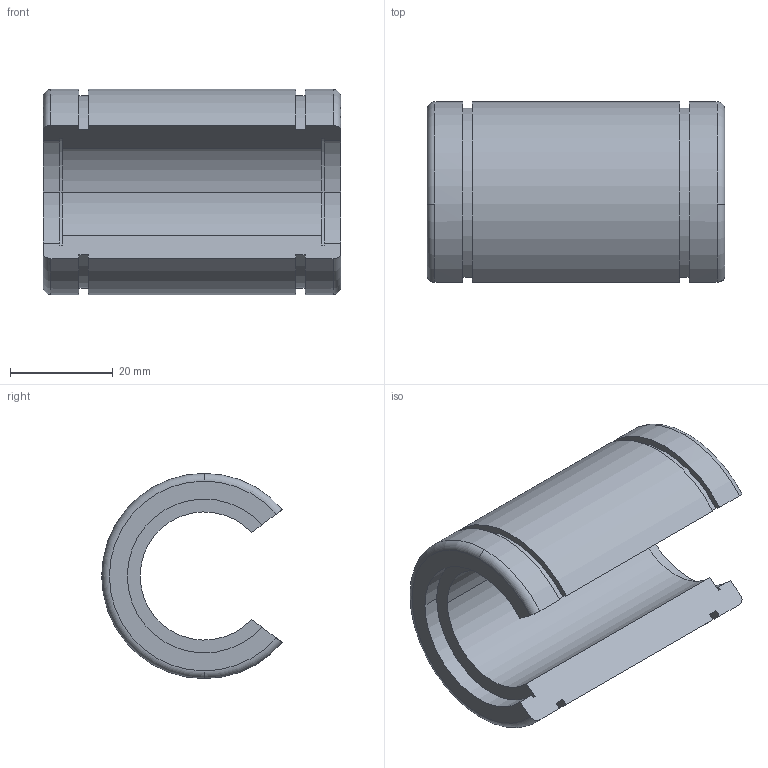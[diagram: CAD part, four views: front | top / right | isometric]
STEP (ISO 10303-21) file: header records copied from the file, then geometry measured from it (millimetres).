
FILE_DESCRIPTION( ( '' ), '1' );
FILE_NAME( '//partserver001.servicenet/client_exchange/iodir/jobs/output/wkb20114347_no2/STEP/ubm_25op_ww_2_03.stp', '2009-11-12T13:09:09', ( '' ), ( '' ), ' ', ' ', ' ' );
FILE_SCHEMA( ( 'CONFIG_CONTROL_DESIGN' ) );
Length unit declared in the file: millimetre
Products named in the file (1): 1
Bounding box: 58 x 35.22 x 40 mm (x, y, z)
Volume: 32438.8 mm3; surface area: 11734.6 mm2
Topology: 1 solids, 1 shells, 38 faces, 108 edges, 72 vertices
Faces by surface type: cylinder 20, plane 12, torus 6
Entity records: 1370 total; most frequent: CARTESIAN_POINT 287, DIRECTION 236, ORIENTED_EDGE 216, EDGE_CURVE 108, AXIS2_PLACEMENT_3D 93, VERTEX_POINT 72, CIRCLE 54, LINE 50
